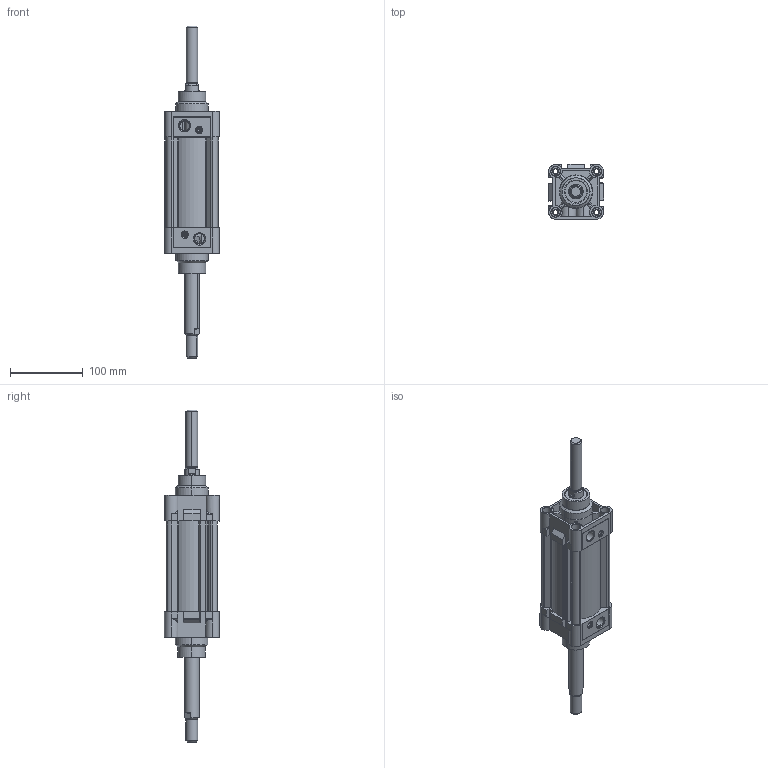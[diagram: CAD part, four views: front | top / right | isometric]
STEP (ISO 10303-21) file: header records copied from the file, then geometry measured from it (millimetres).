
FILE_DESCRIPTION (( 'STEP AP203' ), '1' );
FILE_NAME ('KDNT63X75CIFTMILLI-STROK AYARLI-CYLINDER.STEP', '2016-03-26T07:51:51', ( 'user' ), ( '' ), 'SwSTEP 2.0', 'SolidWorks 2013', '' );
FILE_SCHEMA (( 'CONFIG_CONTROL_DESIGN' ));
Length unit declared in the file: millimetre
Products named in the file (6): KDNT 63X75 BORU; 烰 KAPAK  63; ORTA PÝSTON 63 ÇÝFT MÝLLÝ; Piston Mili 63x75; KDNT63X75CIFTMILLI-STROK AYARLI-CYLINDER; SAPLAMALI M尳 STROK AYARLI 63x75
Assembly tree (6 placements, depth 2):
  KDNT63X75CIFTMILLI-STROK AYARLI-CYLINDER
    烰 KAPAK  63  x2
    KDNT 63X75 BORU
    ORTA PÝSTON 63 ÇÝFT MÝLLÝ
    Piston Mili 63x75
    SAPLAMALI M尳 STROK AYARLI 63x75
Bounding box: 75.8 x 76.06 x 457.3 mm (x, y, z)
Volume: 543939.1 mm3; surface area: 249256.4 mm2
Topology: 8 solids, 8 shells, 894 faces, 2287 edges, 1465 vertices
Faces by surface type: cylinder 430, plane 292, cone 96, bspline 68, torus 8
Entity records: 21274 total; most frequent: CARTESIAN_POINT 6914, ORIENTED_EDGE 2912, DIRECTION 2835, EDGE_CURVE 1456, AXIS2_PLACEMENT_3D 1095, VERTEX_POINT 937, EDGE_LOOP 653, VECTOR 645
